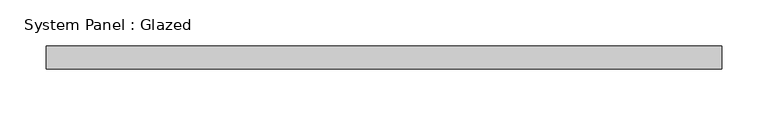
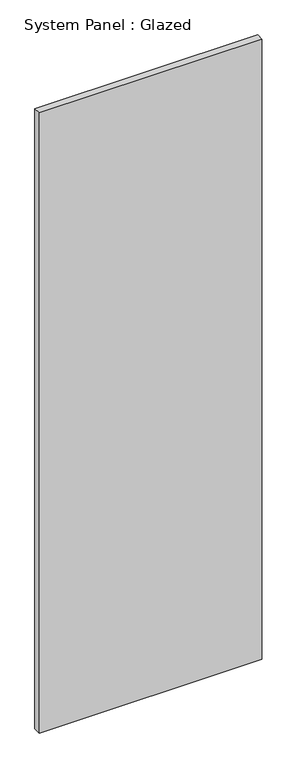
"""IFC4 building model written with IfcOpenShell, lengths in millimetres: plate geometry, System Panel : Glazed."""

import ifcopenshell
import ifcopenshell.guid

model = None  # the IFC model being written
_history = None  # IfcOwnerHistory: only IFC2X3 demands one
_inside = {}  # id of a spatial element -> (the spatial element, [elements in it])
_under = {}  # id of a project, library or spatial element -> (it, [spatial elements below it])
_declared = {}  # id of a project -> (the project, [libraries it declares])
_typed = {}  # id of a type object -> (the type object, [elements of that type])
_made_of = {}  # id of a material, layer set ... -> (it, [elements and type objects made of it])


def new_model(schema):
    """Start an empty IFC model of exactly this schema.

    Asked for "IFC4X3", IfcOpenShell would pick the latest addendum, in which some entities
    have other attributes; the version numbers below select the first issue.
    IFC2X3 requires an IfcOwnerHistory on every rooted entity: one is made here for all.
    """
    global model, _history
    if schema == "IFC4X3":
        model = ifcopenshell.file(schema_version=(4, 3, 0, 0))
    else:
        model = ifcopenshell.file(schema=schema)
    _inside.clear()
    _under.clear()
    _declared.clear()
    _typed.clear()
    _made_of.clear()
    _history = None
    if model.schema == "IFC2X3":
        org = make("IfcOrganization", Name="unknown")
        user = make(
            "IfcPersonAndOrganization",
            ThePerson=make("IfcPerson", FamilyName="unknown"),
            TheOrganization=org,
        )
        app = make(
            "IfcApplication",
            ApplicationDeveloper=org,
            Version="unknown",
            ApplicationFullName="unknown",
            ApplicationIdentifier="unknown",
        )
        _history = make(
            "IfcOwnerHistory",
            OwningUser=user,
            OwningApplication=app,
            ChangeAction="ADDED",
            CreationDate=0,
        )
    return model


def make(cls, **values):
    """One entity of the class cls with the attributes given. An attribute that is None is left unset."""
    return model.create_entity(
        cls, **{name: value for name, value in values.items() if value is not None}
    )


def rooted(cls, **values):
    """An entity with a GlobalId (a new one), such as an element, a storey or a relation."""
    return make(cls, GlobalId=ifcopenshell.guid.new(), OwnerHistory=_history, **values)


def si_unit(unit_type, name, prefix=None):
    """IfcSIUnit, for example si_unit("LENGTHUNIT", "METRE", prefix="MILLI")."""
    return make("IfcSIUnit", UnitType=unit_type, Prefix=prefix, Name=name)


def assignment(units):
    """IfcUnitAssignment: the units of a project."""
    return None if units is None else make("IfcUnitAssignment", Units=units)


def point(xyz):
    """IfcCartesianPoint."""
    return None if xyz is None else make("IfcCartesianPoint", Coordinates=xyz)


def direction(xyz):
    """IfcDirection."""
    return None if xyz is None else make("IfcDirection", DirectionRatios=xyz)


def frame(location, z_axis=None, x_axis=None):
    """IfcAxis2Placement3D, a coordinate frame: its origin and axes. An axis left out is left unset."""
    return make(
        "IfcAxis2Placement3D",
        Location=point(location),
        Axis=direction(z_axis),
        RefDirection=direction(x_axis),
    )


def origin():
    """The frame at (0, 0, 0) with its axes left unset."""
    return frame((0.0, 0.0, 0.0))


def origin_with_axes():
    """The frame at (0, 0, 0) with the z axis (0, 0, 1) and the x axis (1, 0, 0) written out."""
    return frame((0.0, 0.0, 0.0), z_axis=(0.0, 0.0, 1.0), x_axis=(1.0, 0.0, 0.0))


def place(relative_to, where):
    """IfcLocalPlacement: puts the frame where relative to a parent placement (None: the world)."""
    return make(
        "IfcLocalPlacement", PlacementRelTo=relative_to, RelativePlacement=where
    )


def context(
    kind, dimensions, precision=None, world=None, true_north=None, identifier=None
):
    """IfcGeometricRepresentationContext, for example the 3D "Model" context."""
    return make(
        "IfcGeometricRepresentationContext",
        ContextIdentifier=identifier,
        ContextType=kind,
        CoordinateSpaceDimension=dimensions,
        Precision=precision,
        WorldCoordinateSystem=world,
        TrueNorth=true_north,
    )


def project(units=None, contexts=None):
    """IfcProject with its units and contexts."""
    return rooted(
        "IfcProject",
        Name="project",
        RepresentationContexts=contexts,
        UnitsInContext=assignment(units),
    )


def spatial(cls, under=None, at=None, **own):
    """A site, building, storey or space (cls), placed at a placement, below another one or the project."""
    s = rooted(cls, ObjectPlacement=at, **own)
    if under is not None:
        _under.setdefault(under.id(), (under, []))[1].append(s)
    return s


def polyline(points):
    """IfcPolyline through the points."""
    return make("IfcPolyline", Points=[point(p) for p in points])


def outline(outer, holes=None, kind="AREA"):
    """IfcArbitraryClosedProfileDef: a profile drawn as a closed curve; with holes, ...WithVoids."""
    if holes is None:
        return make("IfcArbitraryClosedProfileDef", ProfileType=kind, OuterCurve=outer)
    return make(
        "IfcArbitraryProfileDefWithVoids",
        ProfileType=kind,
        OuterCurve=outer,
        InnerCurves=holes,
    )


def extrude(swept, where, along, depth):
    """IfcExtrudedAreaSolid: the profile swept, set in the frame where, extruded along a direction by depth."""
    return make(
        "IfcExtrudedAreaSolid",
        SweptArea=swept,
        Position=where,
        ExtrudedDirection=direction(along),
        Depth=depth,
    )


def shape(context_of_items, identifier, shape_type, items):
    """IfcShapeRepresentation: the items that make up one representation, for example the "Body"."""
    return make(
        "IfcShapeRepresentation",
        ContextOfItems=context_of_items,
        RepresentationIdentifier=identifier,
        RepresentationType=shape_type,
        Items=items,
    )


def source(mapping_origin, context_of_items, identifier, shape_type, items):
    """IfcRepresentationMap: a shape defined once, which mapped items show again and again."""
    return make(
        "IfcRepresentationMap",
        MappingOrigin=mapping_origin,
        MappedRepresentation=shape(context_of_items, identifier, shape_type, items),
    )


def transform(
    local_origin,
    x_axis=None,
    y_axis=None,
    z_axis=None,
    scale=None,
    scale2=None,
    scale3=None,
    uniform=True,
):
    """IfcCartesianTransformationOperator3D, or its non-uniform kind. x_axis, y_axis, z_axis: its Axis1, 2, 3."""
    if uniform:
        return make(
            "IfcCartesianTransformationOperator3D",
            Axis1=direction(x_axis),
            Axis2=direction(y_axis),
            LocalOrigin=point(local_origin),
            Scale=scale,
            Axis3=direction(z_axis),
        )
    return make(
        "IfcCartesianTransformationOperator3DnonUniform",
        Axis1=direction(x_axis),
        Axis2=direction(y_axis),
        LocalOrigin=point(local_origin),
        Scale=scale,
        Axis3=direction(z_axis),
        Scale2=scale2,
        Scale3=scale3,
    )


def mapped(mapping_source, mapping_target):
    """IfcMappedItem: shows the shape of a source again, moved by a transform."""
    return make(
        "IfcMappedItem", MappingSource=mapping_source, MappingTarget=mapping_target
    )


def made_of(thing, what):
    """Note that an element or type object is made of a material, layer set ...; save() writes the relation."""
    if what is not None:
        _made_of.setdefault(what.id(), (what, []))[1].append(thing)
    return thing


def element(
    cls,
    number,
    at=None,
    inside=None,
    cuts=None,
    type_object=None,
    material=None,
    context=None,
    identifier="Body",
    shape_type=None,
    held_by="IfcProductDefinitionShape",
    body=None,
    shapes=None,
    **own,
):
    """One element of the class cls, such as IfcWall. Its Tag is "e" and its number.

    at: its placement. inside: the storey or other place that contains it. cuts: it is an
    opening in that element (IfcRelVoidsElement). A single representation is given by context,
    identifier, shape_type and body (its items); several are given by shapes. held_by: the class
    of the entity that holds the representations. save() writes the other relations.
    """
    e = rooted(cls, Tag="e%d" % number, ObjectPlacement=at, **own)
    if body is not None:
        shapes = [shape(context, identifier, shape_type, body)]
    if shapes is not None:
        e.Representation = make(held_by, Representations=shapes)
    if inside is not None:
        _inside.setdefault(inside.id(), (inside, []))[1].append(e)
    if cuts is not None:
        rooted(
            "IfcRelVoidsElement", RelatingBuildingElement=cuts, RelatedOpeningElement=e
        )
    if type_object is not None:
        _typed.setdefault(type_object.id(), (type_object, []))[1].append(e)
    return made_of(e, material)


def aggregate(whole, parts):
    """IfcRelAggregates: a whole, such as a stair, and the parts it consists of."""
    return rooted("IfcRelAggregates", RelatingObject=whole, RelatedObjects=parts)


def save(model, path):
    """Write the relations noted so far, then the file.

    IfcRelAggregates (storeys below a building ...), IfcRelContainedInSpatialStructure (elements
    in a storey), IfcRelDefinesByType, IfcRelAssociatesMaterial and IfcRelDeclares: one each for
    every whole, place, type object, material and project.
    """
    for whole, parts in _under.values():
        aggregate(whole, parts)
    for where, things in _inside.values():
        rooted(
            "IfcRelContainedInSpatialStructure",
            RelatedElements=things,
            RelatingStructure=where,
        )
    for kind, things in _typed.values():
        rooted("IfcRelDefinesByType", RelatedObjects=things, RelatingType=kind)
    for what, things in _made_of.values():
        rooted("IfcRelAssociatesMaterial", RelatedObjects=things, RelatingMaterial=what)
    for by, libraries in _declared.values():
        rooted("IfcRelDeclares", RelatingContext=by, RelatedDefinitions=libraries)
    model.write(path)


def system_panel_glazed_f50cad0b(model_context):
    return source(origin(), model_context, "Body", "SweptSolid", [
        extrude(outline(polyline([(365.0000002, 24.5), (-365.0000002, 24.5), (-365.0000002, 49.5), (365.0000002, 49.5), (365.0000002, 24.5)])), origin_with_axes(), (0.0, 0.0, 1.0), 2150.0),
    ])


if __name__ == "__main__":
    model = new_model("IFC4")
    model_context = context("Model", 3, world=origin())
    ifc_project = project(units=[si_unit("LENGTHUNIT", "METRE", prefix="MILLI")], contexts=[model_context])
    site = spatial("IfcSite", under=ifc_project)
    building = spatial("IfcBuilding", under=site)
    placement = place(None, origin())
    system_panel_glazed_shape = system_panel_glazed_f50cad0b(model_context)
    element("IfcPlate", 1, ObjectType="System Panel : Glazed", at=placement, inside=building, context=model_context, shape_type="MappedRepresentation", body=[
        mapped(system_panel_glazed_shape, transform((0.0, 0.0, 0.0), x_axis=(1.0, 0.0, 0.0), y_axis=(0.0, 1.0, 0.0), z_axis=(0.0, 0.0, 1.0))),
    ])
    save(model, "model.ifc")
